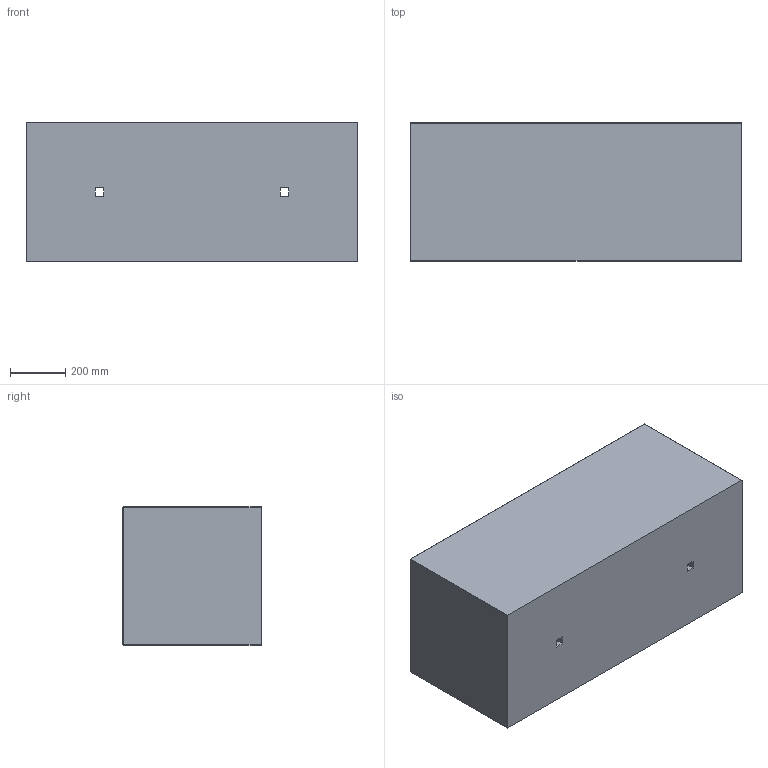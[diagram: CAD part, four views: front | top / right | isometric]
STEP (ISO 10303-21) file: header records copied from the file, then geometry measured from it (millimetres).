
FILE_DESCRIPTION(/* description */ (''),/* implementation_level */ '2;1');
FILE_NAME(/* name */ 'C:\Mac\Home\Desktop\btnv\inventor\basso1205050\donica betonowa Basso 120x50x50cm.stp',/* time_stamp */ '2025-11-10T22:06:14+01:00',/* author */ ('dwasik'),/* organization */ (''),/* preprocessor_version */ 'ST-DEVELOPER v15.6',/* originating_system */ 'Autodesk Inventor 2015',/* authorisation */ '');
FILE_SCHEMA (('AUTOMOTIVE_DESIGN { 1 0 10303 214 3 1 1 }'));
Length unit declared in the file: millimetre
Products named in the file (1): Part1
Bounding box: 1200 x 500 x 500 mm (x, y, z)
Volume: 83542841.8 mm3; surface area: 4320480.9 mm2
Topology: 1 solids, 1 shells, 31 faces, 72 edges, 44 vertices
Faces by surface type: plane 19, cylinder 8, sphere 4
Entity records: 898 total; most frequent: DIRECTION 152, CARTESIAN_POINT 148, ORIENTED_EDGE 144, EDGE_CURVE 72, LINE 56, VECTOR 56, AXIS2_PLACEMENT_3D 48, VERTEX_POINT 44
